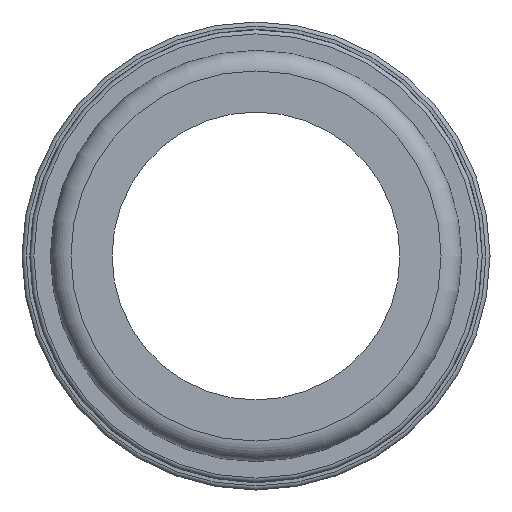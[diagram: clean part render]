
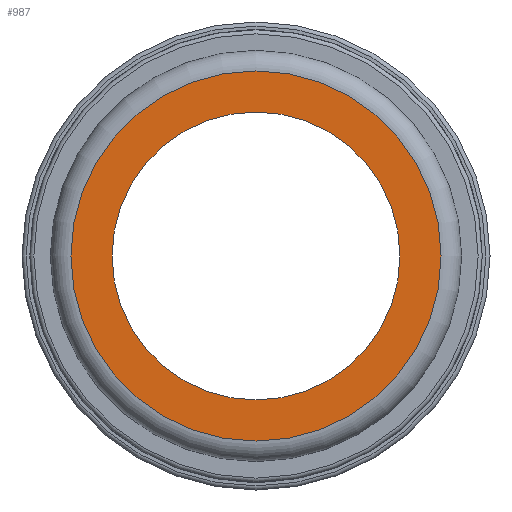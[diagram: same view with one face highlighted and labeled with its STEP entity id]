
A CAD part, left-side view. The second image highlights one B-rep face of the part: STEP entity #987.
In plain terms, the highlighted planar face has unit normal (-1, 0, 0).
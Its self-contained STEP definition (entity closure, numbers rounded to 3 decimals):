
#181=PLANE('',#1101);
#217=FACE_BOUND('',#343,.T.);
#273=FACE_OUTER_BOUND('',#342,.T.);
#342=EDGE_LOOP('',(#913));
#343=EDGE_LOOP('',(#914));
#402=CIRCLE('',#1099,39.548);
#404=CIRCLE('',#1102,30.759);
#500=VERTEX_POINT('',#1872);
#502=VERTEX_POINT('',#1877);
#640=EDGE_CURVE('',#500,#500,#402,.T.);
#642=EDGE_CURVE('',#502,#502,#404,.T.);
#913=ORIENTED_EDGE('',*,*,#640,.F.);
#914=ORIENTED_EDGE('',*,*,#642,.T.);
#987=ADVANCED_FACE('',(#273,#217),#181,.T.);
#1099=AXIS2_PLACEMENT_3D('',#1873,#1380,#1381);
#1101=AXIS2_PLACEMENT_3D('',#1876,#1384,#1385);
#1102=AXIS2_PLACEMENT_3D('',#1878,#1386,#1387);
#1380=DIRECTION('center_axis',(1.,0.,0.));
#1381=DIRECTION('ref_axis',(0.,-1.,0.));
#1384=DIRECTION('center_axis',(-1.,0.,0.));
#1385=DIRECTION('ref_axis',(0.,0.,1.));
#1386=DIRECTION('center_axis',(1.,0.,0.));
#1387=DIRECTION('ref_axis',(0.,0.,-1.));
#1872=CARTESIAN_POINT('',(-137.,39.548,0.));
#1873=CARTESIAN_POINT('Origin',(-137.,0.,0.));
#1876=CARTESIAN_POINT('Origin',(-137.,43.942,0.));
#1877=CARTESIAN_POINT('',(-137.,30.759,0.));
#1878=CARTESIAN_POINT('Origin',(-137.,0.,0.));
